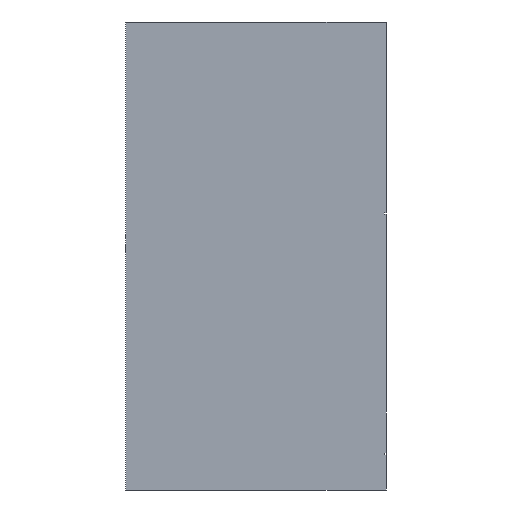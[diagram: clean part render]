
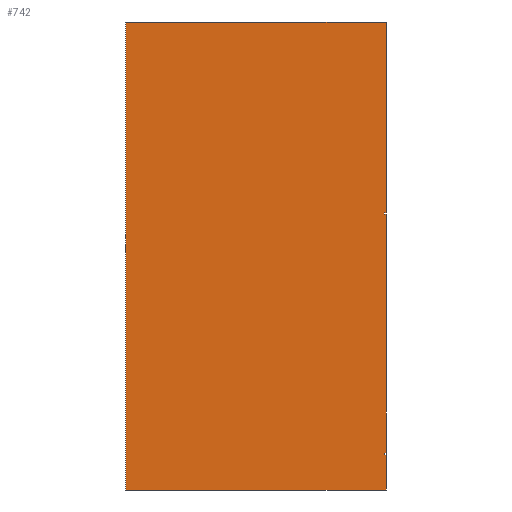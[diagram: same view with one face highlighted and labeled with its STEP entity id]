
A CAD part, left-side view. The second image highlights one B-rep face of the part: STEP entity #742.
In plain terms, the highlighted planar face has unit normal (-1, 0, 0).
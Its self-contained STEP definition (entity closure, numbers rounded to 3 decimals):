
#56=FACE_OUTER_BOUND('',#89,.T.);
#89=EDGE_LOOP('',(#656,#657,#658,#659,#660,#661,#662,#663,#664,#665,#666,
#667));
#231=VERTEX_POINT('',#1892);
#233=VERTEX_POINT('',#1896);
#235=VERTEX_POINT('',#1901);
#236=VERTEX_POINT('',#1906);
#239=VERTEX_POINT('',#1913);
#241=VERTEX_POINT('',#1917);
#243=VERTEX_POINT('',#1922);
#244=VERTEX_POINT('',#1927);
#246=VERTEX_POINT('',#1936);
#249=VERTEX_POINT('',#1943);
#251=VERTEX_POINT('',#1950);
#253=VERTEX_POINT('',#1956);
#404=EDGE_CURVE('',#231,#233,#981,.T.);
#407=EDGE_CURVE('',#235,#231,#984,.T.);
#408=EDGE_CURVE('',#236,#235,#985,.T.);
#414=EDGE_CURVE('',#239,#241,#991,.T.);
#417=EDGE_CURVE('',#243,#239,#994,.T.);
#418=EDGE_CURVE('',#244,#243,#995,.T.);
#422=EDGE_CURVE('',#241,#236,#999,.T.);
#424=EDGE_CURVE('',#233,#246,#1001,.T.);
#428=EDGE_CURVE('',#249,#244,#1005,.T.);
#430=EDGE_CURVE('',#251,#249,#1007,.T.);
#434=EDGE_CURVE('',#246,#253,#1011,.T.);
#436=EDGE_CURVE('',#253,#251,#1013,.T.);
#656=ORIENTED_EDGE('',*,*,#430,.T.);
#657=ORIENTED_EDGE('',*,*,#428,.T.);
#658=ORIENTED_EDGE('',*,*,#418,.T.);
#659=ORIENTED_EDGE('',*,*,#417,.T.);
#660=ORIENTED_EDGE('',*,*,#414,.T.);
#661=ORIENTED_EDGE('',*,*,#422,.T.);
#662=ORIENTED_EDGE('',*,*,#408,.T.);
#663=ORIENTED_EDGE('',*,*,#407,.T.);
#664=ORIENTED_EDGE('',*,*,#404,.T.);
#665=ORIENTED_EDGE('',*,*,#424,.T.);
#666=ORIENTED_EDGE('',*,*,#434,.T.);
#667=ORIENTED_EDGE('',*,*,#436,.T.);
#710=PLANE('',#1248);
#742=ADVANCED_FACE('',(#56),#710,.T.);
#981=LINE('',#1898,#1184);
#984=LINE('',#1904,#1187);
#985=LINE('',#1907,#1188);
#991=LINE('',#1919,#1194);
#994=LINE('',#1925,#1197);
#995=LINE('',#1928,#1198);
#999=LINE('',#1934,#1202);
#1001=LINE('',#1939,#1204);
#1005=LINE('',#1946,#1208);
#1007=LINE('',#1951,#1210);
#1011=LINE('',#1958,#1214);
#1013=LINE('',#1961,#1216);
#1184=VECTOR('',#1462,10.);
#1187=VECTOR('',#1467,10.);
#1188=VECTOR('',#1470,10.);
#1194=VECTOR('',#1478,10.);
#1197=VECTOR('',#1483,10.);
#1198=VECTOR('',#1486,10.);
#1202=VECTOR('',#1492,1490.);
#1204=VECTOR('',#1496,1190.);
#1208=VECTOR('',#1502,220.);
#1210=VECTOR('',#1506,1625.);
#1214=VECTOR('',#1512,1625.);
#1216=VECTOR('',#1516,2920.);
#1248=AXIS2_PLACEMENT_3D('',#1962,#1517,#1518);
#1462=DIRECTION('',(0.,-1.,0.));
#1467=DIRECTION('',(0.,0.,1.));
#1470=DIRECTION('',(0.,1.,0.));
#1478=DIRECTION('',(0.,-1.,0.));
#1483=DIRECTION('',(0.,0.,1.));
#1486=DIRECTION('',(0.,1.,0.));
#1492=DIRECTION('',(0.,0.,1.));
#1496=DIRECTION('',(0.,0.,1.));
#1502=DIRECTION('',(0.,0.,1.));
#1506=DIRECTION('',(0.,-1.,0.));
#1512=DIRECTION('',(0.,1.,0.));
#1516=DIRECTION('',(0.,0.,-1.));
#1517=DIRECTION('center_axis',(-1.,0.,0.));
#1518=DIRECTION('ref_axis',(0.,0.,-1.));
#1892=CARTESIAN_POINT('',(0.,-1615.,1730.));
#1896=CARTESIAN_POINT('',(0.,-1625.,1730.));
#1898=CARTESIAN_POINT('',(0.,-1615.,1730.));
#1901=CARTESIAN_POINT('',(0.,-1615.,1720.));
#1904=CARTESIAN_POINT('',(0.,-1615.,1720.));
#1906=CARTESIAN_POINT('',(0.,-1625.,1720.));
#1907=CARTESIAN_POINT('',(0.,-1625.,1720.));
#1913=CARTESIAN_POINT('',(0.,-1615.,230.));
#1917=CARTESIAN_POINT('',(0.,-1625.,230.));
#1919=CARTESIAN_POINT('',(0.,-1615.,230.));
#1922=CARTESIAN_POINT('',(0.,-1615.,220.));
#1925=CARTESIAN_POINT('',(0.,-1615.,220.));
#1927=CARTESIAN_POINT('',(0.,-1625.,220.));
#1928=CARTESIAN_POINT('',(0.,-1625.,220.));
#1934=CARTESIAN_POINT('',(0.,-1625.,230.));
#1936=CARTESIAN_POINT('',(0.,-1625.,2920.));
#1939=CARTESIAN_POINT('',(0.,-1625.,1730.));
#1943=CARTESIAN_POINT('',(0.,-1625.,0.));
#1946=CARTESIAN_POINT('',(0.,-1625.,0.));
#1950=CARTESIAN_POINT('',(0.,0.,0.));
#1951=CARTESIAN_POINT('',(0.,0.,0.));
#1956=CARTESIAN_POINT('',(0.,0.,2920.));
#1958=CARTESIAN_POINT('',(0.,-1625.,2920.));
#1961=CARTESIAN_POINT('',(0.,0.,2920.));
#1962=CARTESIAN_POINT('Origin',(0.,0.,0.));
